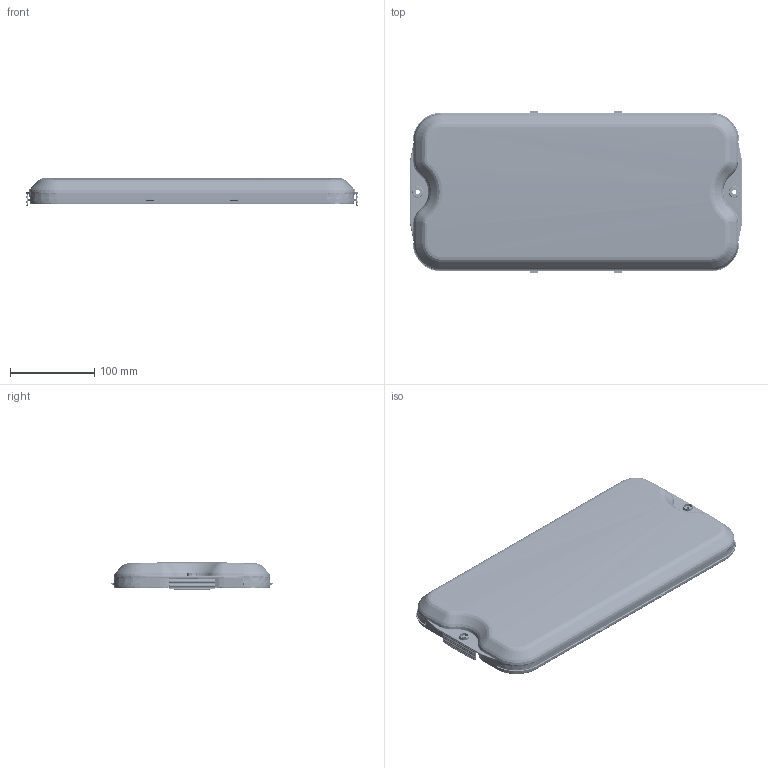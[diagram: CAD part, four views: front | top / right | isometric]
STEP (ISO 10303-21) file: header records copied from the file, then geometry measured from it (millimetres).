
FILE_DESCRIPTION((''),'2;1');
FILE_NAME('051274', '2026-07-03T10:01:07', (''), (''), 'ImageToStl.com STEP Converter','', '');
FILE_SCHEMA(('AUTOMOTIVE_DESIGN_CC2'));
Length unit declared in the file: metre
Products named in the file (1): product0
Bounding box: 394.38 x 191.62 x 33.05 mm (x, y, z)
Surface area: 234890.9 mm2 (no closed solid volume)
Topology: 0 solids, 42866 shells, 42866 faces, 128598 edges, 21415 vertices
Faces by surface type: plane 42866
Entity records: 985910 total; most frequent: DIRECTION 214332, ORIENTED_EDGE 128598, EDGE_CURVE 128598, LINE 128598, VECTOR 128598, AXIS2_PLACEMENT_3D 42867, FACE_SURFACE 42866, PLANE 42866
